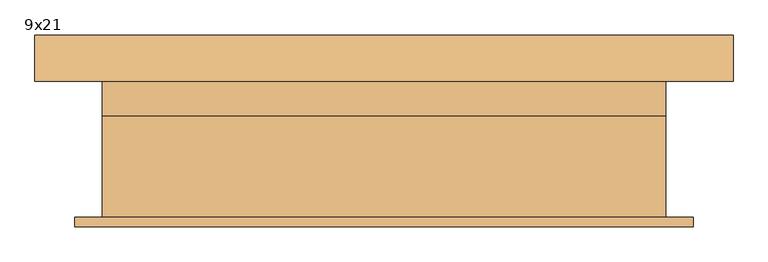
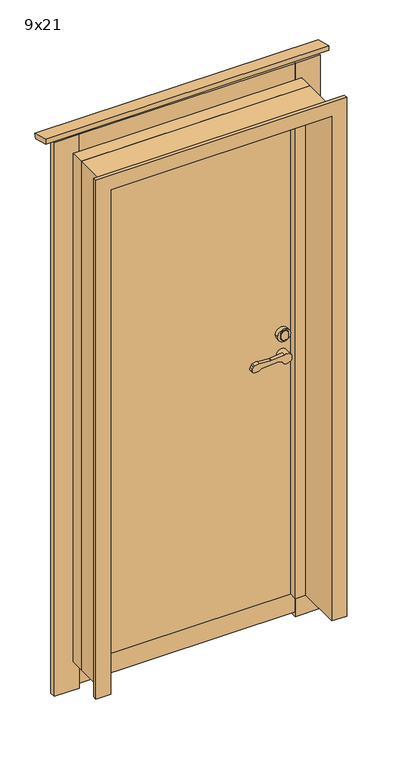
"""IFC4 building model written with IfcOpenShell, lengths in millimetres: door geometry, FPS Bangstad : 9x21."""

from ifc_helpers import new_model, si_unit, frame, origin, origin_with_axes, place, context, project, spatial, polyline, circle_curve, outline, extrude, faceted_brep, source, transform, mapped, element, save
from ifc_brep_helpers import plane_surface, cylinder_surface, revolved_surface, advanced_brep


def door_9x21_b78826aa(model_context):
    return source(origin(), model_context, "Body", "SolidModel", [
        advanced_brep(
        [(365.5814974, 179.973232, 997.7701387), (360.4724333, 179.973232, 998.6022345), (297.6679779, 179.973232, 992.2785443), (268.341903, 179.973232, 987.3918831), (263.4895652, 179.973232, 1000.5438812), (267.125376, 179.973232, 1008.6149507), (271.9379339, 179.973232, 1013.5335945), (290.5166845, 179.973232, 1015.9164674), (335.2405827, 179.973232, 1012.8329847), (340.3094903, 179.973232, 1012.9128632), (388.8891463, 179.973232, 1017.8042788), (418.0, 179.973232, 1000.0), (380.004483, 179.973232, 991.2729519), (340.3094903, 165.486616, 1012.9128632), (335.2405827, 165.486616, 1012.8329847), (290.5166845, 165.486616, 1015.9164674), (271.9379339, 165.486616, 1013.5335945), (267.125376, 165.486616, 1008.6149507), (263.4895652, 165.486616, 1000.5438812), (268.341903, 165.486616, 987.3918831), (297.6679779, 165.486616, 992.2785443), (360.4724333, 165.486616, 998.6022345), (365.5814974, 165.486616, 997.7701387), (380.004483, 165.486616, 991.2729519), (378.0, 165.486616, 1000.0), (388.8891463, 165.486616, 1017.8042788), (418.0, 144.973232, 1000.0), (378.0, 144.973232, 1000.0)],
        [
            (0, 1, circle_curve(frame((361.4742534, 179.973232, 988.6525432), z_axis=(0.0, -1.0, 0.0), x_axis=(-0.9949691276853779, 0.0, -0.10018200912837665)), 10.0)),
            (1, 2),
            (2, 3, circle_curve(frame((279.4773313, 179.973232, 1011.0052772), z_axis=(0.0, 1.0, 0.0), x_axis=(-0.9949691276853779, 0.0, -0.10018200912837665)), 26.1072815)),
            (3, 4, circle_curve(frame((272.6071607, 179.973232, 996.4366372), z_axis=(0.0, 1.0, 0.0), x_axis=(-0.9949691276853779, 0.0, -0.10018200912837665)), 10.0)),
            (4, 5),
            (5, 6, circle_curve(frame((276.2429714, 179.973232, 1004.5077067), z_axis=(0.0, 1.0, 0.0), x_axis=(-0.9949691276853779, 0.0, -0.10018200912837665)), 10.0)),
            (6, 7, circle_curve(frame((284.8530466, 179.973232, 986.455931), z_axis=(0.0, 1.0, 0.0), x_axis=(-0.9949691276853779, 0.0, -0.10018200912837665)), 30.0)),
            (7, 8),
            (8, 9, circle_curve(frame((337.30403, 179.973232, 1042.761937), z_axis=(0.0, -1.0, 0.0), x_axis=(-0.9949691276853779, 0.0, -0.10018200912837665)), 30.0)),
            (9, 10),
            (10, 11, circle_curve(frame((398.0, 179.973232, 1000.0), z_axis=(0.0, 1.0, 0.0), x_axis=(-1.0, 0.0, 0.0)), 20.0)),
            (11, 12, circle_curve(frame((398.0, 179.973232, 1000.0), z_axis=(0.0, 1.0, 0.0), x_axis=(-1.0, 0.0, 0.0)), 20.0)),
            (12, 0),
            (13, 14, circle_curve(frame((337.30403, 165.486616, 1042.761937), z_axis=(0.0, 1.0, 0.0), x_axis=(-0.9949691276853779, 0.0, -0.10018200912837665)), 30.0)),
            (14, 15),
            (15, 16, circle_curve(frame((284.8530466, 165.486616, 986.455931), z_axis=(0.0, -1.0, 0.0), x_axis=(-0.9949691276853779, 0.0, -0.10018200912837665)), 30.0)),
            (16, 17, circle_curve(frame((276.2429714, 165.486616, 1004.5077067), z_axis=(0.0, -1.0, 0.0), x_axis=(-0.9949691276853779, 0.0, -0.10018200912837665)), 10.0)),
            (17, 18),
            (18, 19, circle_curve(frame((272.6071607, 165.486616, 996.4366372), z_axis=(0.0, -1.0, 0.0), x_axis=(-0.9949691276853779, 0.0, -0.10018200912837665)), 10.0)),
            (19, 20, circle_curve(frame((279.4773313, 165.486616, 1011.0052772), z_axis=(0.0, -1.0, 0.0), x_axis=(-0.9949691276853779, 0.0, -0.10018200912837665)), 26.1072815)),
            (20, 21),
            (21, 22, circle_curve(frame((361.4742534, 165.486616, 988.6525432), z_axis=(0.0, 1.0, 0.0), x_axis=(-0.9949691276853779, 0.0, -0.10018200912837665)), 10.0)),
            (22, 23),
            (23, 24, circle_curve(frame((398.0, 165.486616, 1000.0), z_axis=(0.0, 1.0, 0.0), x_axis=(-1.0, 0.0, 0.0)), 20.0)),
            (24, 25, circle_curve(frame((398.0, 165.486616, 1000.0), z_axis=(0.0, 1.0, 0.0), x_axis=(-1.0, 0.0, 0.0)), 20.0)),
            (25, 13),
            (9, 13),
            (25, 10),
            (22, 0),
            (12, 23),
            (21, 1),
            (20, 2),
            (19, 3),
            (18, 4),
            (17, 5),
            (16, 6),
            (15, 7),
            (14, 8),
            (26, 27, circle_curve(frame((398.0, 144.973232, 1000.0), z_axis=(0.0, -1.0, 0.0), x_axis=(-1.0, 0.0, 0.0)), 20.0)),
            (27, 26, circle_curve(frame((398.0, 144.973232, 1000.0), z_axis=(0.0, -1.0, 0.0), x_axis=(-1.0, 0.0, 0.0)), 20.0)),
            (27, 24),
            (11, 26),
        ],
        [
            plane_surface(frame((389.3164257, 179.973232, 1017.847301), z_axis=(0.0, 1.0000000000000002, 0.0), x_axis=(0.9949691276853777, 0.0, 0.10018200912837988))),
            plane_surface(frame((389.3164257, 165.486616, 1017.847301), z_axis=(0.0, -1.0000000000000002, 0.0), x_axis=(-0.9949691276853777, 0.0, -0.10018200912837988))),
            plane_surface(frame((340.3094903, 179.973232, 1012.9128632), z_axis=(-0.10018200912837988, 0.0, 0.9949691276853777), x_axis=(0.0, -1.0, 0.0))),
            plane_surface(frame((398.5891035, 179.973232, 982.9010548), z_axis=(-0.41072439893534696, 0.0, -0.91175954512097), x_axis=(0.0, -1.0, 0.0))),
            revolved_surface(polyline([(351.5245621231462, 165.486616, 987.6507231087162), (351.5245621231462, 179.973232, 987.6507231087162)]), (361.4742534, 165.486616, 988.6525432), (0.0, -1.0, 0.0)),
            plane_surface(frame((360.4724333, 179.973232, 998.6022345), z_axis=(0.10018200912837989, 0.0, -0.9949691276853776), x_axis=(0.0, -1.0, 0.0))),
            cylinder_surface(frame((279.4773313, 165.486616, 1011.0052772), z_axis=(0.0, 1.0, 0.0), x_axis=(-0.9949691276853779, 0.0, -0.10018200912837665)), 26.1072815),
            cylinder_surface(frame((272.6071607, 165.486616, 996.4366372), z_axis=(0.0, 1.0, 0.0), x_axis=(-0.9949691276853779, 0.0, -0.10018200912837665)), 10.0),
            plane_surface(frame((263.4895652, 179.973232, 1000.5438812), z_axis=(-0.9117595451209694, 0.0, 0.41072439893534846), x_axis=(0.0, -1.0, 0.0))),
            cylinder_surface(frame((276.2429714, 165.486616, 1004.5077067), z_axis=(0.0, 1.0, 0.0), x_axis=(-0.9949691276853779, 0.0, -0.10018200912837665)), 10.0),
            cylinder_surface(frame((284.8530466, 165.486616, 986.455931), z_axis=(0.0, 1.0, 0.0), x_axis=(-0.9949691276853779, 0.0, -0.10018200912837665)), 30.0),
            plane_surface(frame((290.5166845, 179.973232, 1015.9164674), z_axis=(0.06878157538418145, 0.0, 0.9976317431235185), x_axis=(0.0, -1.0, 0.0))),
            revolved_surface(polyline([(307.4549561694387, 165.486616, 1039.7564767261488), (307.4549561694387, 179.973232, 1039.7564767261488)]), (337.30403, 165.486616, 1042.761937), (0.0, -1.0, 0.0)),
            plane_surface(frame((378.0, 144.973232, 1000.0), z_axis=(0.0, -1.0, 0.0), x_axis=(0.0, 0.0, -1.0))),
            cylinder_surface(frame((398.0, 144.973232, 1000.0), z_axis=(0.0, 1.0, 0.0), x_axis=(-1.0, 0.0, 0.0)), 20.0),
        ],
        [
            (0, [[1, 2, 3, 4, 5, 6, 7, 8, 9, 10, 11, 12, 13]]),
            (1, [[14, 15, 16, 17, 18, 19, 20, 21, 22, 23, 24, 25, 26]]),
            (2, [[27, -26, 28, -10]]),
            (3, [[29, -13, 30, -23]]),
            (4, [[-1, -29, -22, 31]]),
            (5, [[-2, -31, -21, 32]]),
            (6, [[-3, -32, -20, 33]]),
            (7, [[-4, -33, -19, 34]]),
            (8, [[-5, -34, -18, 35]]),
            (9, [[-6, -35, -17, 36]]),
            (10, [[-7, -36, -16, 37]]),
            (11, [[-8, -37, -15, 38]]),
            (12, [[-9, -38, -14, -27]]),
            (13, [[39, 40]]),
            (14, [[-40, 41, -24, -30, -12, 42]]),
            (14, [[-39, -42, -11, -28, -25, -41]]),
        ],
    ),
        advanced_brep(
        [(423.0, 161.932999, 1085.0), (373.0, 161.932999, 1085.0), (410.797635, 161.932999, 1096.6951736), (404.4238501, 161.932999, 1104.5281439), (390.7874865, 161.932999, 1104.1920273), (384.797635, 161.932999, 1096.448688), (384.7976351, 161.932999, 1076.6596406), (390.7234976, 161.932999, 1068.9331955), (404.3598612, 161.932999, 1068.4849283), (410.797635, 161.932999, 1076.3309113), (423.0, 144.973232, 1085.0), (373.0, 144.973232, 1085.0), (404.4238501, 166.932999, 1104.5281439), (410.797635, 166.932999, 1096.6951736), (410.797635, 166.932999, 1076.3309113), (404.3598612, 166.932999, 1068.4849283), (390.7234976, 166.932999, 1068.9331955), (384.7976351, 166.932999, 1076.6596406), (384.797635, 166.932999, 1096.448688), (390.7874865, 166.932999, 1104.1920273)],
        [
            (0, 1, circle_curve(frame((398.0, 161.932999, 1085.0), z_axis=(0.0, 1.0, 0.0), x_axis=(-1.0, 0.0, 0.0)), 25.0)),
            (1, 0, circle_curve(frame((398.0, 161.932999, 1085.0), z_axis=(0.0, 1.0, 0.0), x_axis=(-1.0, 0.0, 0.0)), 25.0)),
            (2, 3, circle_curve(frame((402.797635, 161.932999, 1096.6951736), z_axis=(0.0, -1.0, 0.0), x_axis=(-1.0, 0.0, 0.0)), 8.0)),
            (3, 4, circle_curve(frame((398.3255436, 161.932999, 1075.1545051), z_axis=(0.0, -1.0, 0.0), x_axis=(-1.0, 0.0, 0.0)), 30.0)),
            (4, 5, circle_curve(frame((392.797635, 161.932999, 1096.448688), z_axis=(0.0, -1.0, 0.0), x_axis=(-1.0, 0.0, 0.0)), 8.0)),
            (5, 6),
            (6, 7, circle_curve(frame((392.7976351, 161.932999, 1076.6596406), z_axis=(0.0, -1.0, 0.0), x_axis=(-1.0, 0.0, 0.0)), 8.0)),
            (7, 8, circle_curve(frame((398.5015131, 161.932999, 1097.9073646), z_axis=(0.0, -1.0, 0.0), x_axis=(-1.0, 0.0, 0.0)), 30.0)),
            (8, 9, circle_curve(frame((402.797635, 161.932999, 1076.3309113), z_axis=(0.0, -1.0, 0.0), x_axis=(-1.0, 0.0, 0.0)), 8.0)),
            (9, 2),
            (10, 11, circle_curve(frame((398.0, 144.973232, 1085.0), z_axis=(0.0, -1.0, 0.0), x_axis=(-1.0, 0.0, 0.0)), 25.0)),
            (11, 10, circle_curve(frame((398.0, 144.973232, 1085.0), z_axis=(0.0, -1.0, 0.0), x_axis=(-1.0, 0.0, 0.0)), 25.0)),
            (0, 10),
            (11, 1),
            (12, 13, circle_curve(frame((402.797635, 166.932999, 1096.6951736), z_axis=(0.0, 1.0, 0.0), x_axis=(-1.0, 0.0, 0.0)), 8.0)),
            (13, 14),
            (14, 15, circle_curve(frame((402.797635, 166.932999, 1076.3309113), z_axis=(0.0, 1.0, 0.0), x_axis=(-1.0, 0.0, 0.0)), 8.0)),
            (15, 16, circle_curve(frame((398.5015131, 166.932999, 1097.9073646), z_axis=(0.0, 1.0, 0.0), x_axis=(-1.0, 0.0, 0.0)), 30.0)),
            (16, 17, circle_curve(frame((392.7976351, 166.932999, 1076.6596406), z_axis=(0.0, 1.0, 0.0), x_axis=(-1.0, 0.0, 0.0)), 8.0)),
            (17, 18),
            (18, 19, circle_curve(frame((392.797635, 166.932999, 1096.448688), z_axis=(0.0, 1.0, 0.0), x_axis=(-1.0, 0.0, 0.0)), 8.0)),
            (19, 12, circle_curve(frame((398.3255436, 166.932999, 1075.1545051), z_axis=(0.0, 1.0, 0.0), x_axis=(-1.0, 0.0, 0.0)), 30.0)),
            (12, 3),
            (2, 13),
            (9, 14),
            (8, 15),
            (7, 16),
            (6, 17),
            (5, 18),
            (4, 19),
        ],
        [
            plane_surface(frame((373.0, 161.932999, 1085.0), z_axis=(0.0, 1.0, 0.0), x_axis=(0.0, 0.0, 1.0))),
            plane_surface(frame((373.0, 144.973232, 1085.0), z_axis=(0.0, -1.0, 0.0), x_axis=(0.0, 0.0, -1.0))),
            cylinder_surface(frame((398.0, 144.973232, 1085.0), z_axis=(0.0, 1.0, 0.0), x_axis=(-1.0, 0.0, 0.0)), 25.0),
            plane_surface(frame((394.797635, 166.932999, 1096.6951736), z_axis=(0.0, 1.0, 0.0), x_axis=(0.0, 0.0, 1.0))),
            cylinder_surface(frame((402.797635, 161.932999, 1096.6951736), z_axis=(0.0, 1.0, 0.0), x_axis=(-1.0, 0.0, 0.0)), 8.0),
            plane_surface(frame((410.797635, 166.932999, 1096.6951736), z_axis=(1.0, 0.0, 0.0), x_axis=(0.0, -1.0, 0.0))),
            cylinder_surface(frame((402.797635, 161.932999, 1076.3309113), z_axis=(0.0, 1.0, 0.0), x_axis=(-1.0, 0.0, 0.0)), 8.0),
            cylinder_surface(frame((398.5015131, 161.932999, 1097.9073646), z_axis=(0.0, 1.0, 0.0), x_axis=(-1.0, 0.0, 0.0)), 30.0),
            cylinder_surface(frame((392.7976351, 161.932999, 1076.6596406), z_axis=(0.0, 1.0, 0.0), x_axis=(-1.0, 0.0, 0.0)), 8.0),
            plane_surface(frame((384.7976351, 166.932999, 1076.6596406), z_axis=(-1.0, 0.0, -2.725747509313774e-09), x_axis=(0.0, -1.0, 0.0))),
            cylinder_surface(frame((392.797635, 161.932999, 1096.448688), z_axis=(0.0, 1.0, 0.0), x_axis=(-1.0, 0.0, 0.0)), 8.0),
            cylinder_surface(frame((398.3255436, 161.932999, 1075.1545051), z_axis=(0.0, 1.0, 0.0), x_axis=(-1.0, 0.0, 0.0)), 30.0),
        ],
        [
            (0, [[1, 2], [3, 4, 5, 6, 7, 8, 9, 10]]),
            (1, [[11, 12]]),
            (2, [[-1, 13, -12, 14]]),
            (2, [[-2, -14, -11, -13]]),
            (3, [[15, 16, 17, 18, 19, 20, 21, 22]]),
            (4, [[-15, 23, -3, 24]]),
            (5, [[-16, -24, -10, 25]]),
            (6, [[-17, -25, -9, 26]]),
            (7, [[-18, -26, -8, 27]]),
            (8, [[-19, -27, -7, 28]]),
            (9, [[-20, -28, -6, 29]]),
            (10, [[-21, -29, -5, 30]]),
            (11, [[-22, -30, -4, -23]]),
        ],
    ),
        advanced_brep(
        [(365.5814974, 50.0, 997.7701387), (380.004483, 50.0, 991.2729519), (418.0, 50.0, 1000.0), (388.8891463, 50.0, 1017.8042788), (340.3094903, 50.0, 1012.9128632), (335.2405827, 50.0, 1012.8329847), (290.5166845, 50.0, 1015.9164674), (271.9379339, 50.0, 1013.5335945), (267.125376, 50.0, 1008.6149507), (263.4895652, 50.0, 1000.5438812), (268.341903, 50.0, 987.3918831), (297.6679779, 50.0, 992.2785443), (360.4724333, 50.0, 998.6022345), (340.3094903, 64.486616, 1012.9128632), (388.8891463, 64.486616, 1017.8042788), (378.0, 64.486616, 1000.0), (380.004483, 64.486616, 991.2729519), (365.5814974, 64.486616, 997.7701387), (360.4724333, 64.486616, 998.6022345), (297.6679779, 64.486616, 992.2785443), (268.341903, 64.486616, 987.3918831), (263.4895652, 64.486616, 1000.5438812), (267.125376, 64.486616, 1008.6149507), (271.9379339, 64.486616, 1013.5335945), (290.5166845, 64.486616, 1015.9164674), (335.2405827, 64.486616, 1012.8329847), (418.0, 85.0, 1000.0), (378.0, 85.0, 1000.0)],
        [
            (0, 1),
            (1, 2, circle_curve(frame((398.0, 50.0, 1000.0), z_axis=(0.0, -1.0, 0.0), x_axis=(-1.0, 0.0, 0.0)), 20.0)),
            (2, 3, circle_curve(frame((398.0, 50.0, 1000.0), z_axis=(0.0, -1.0, 0.0), x_axis=(-1.0, 0.0, 0.0)), 20.0)),
            (3, 4),
            (4, 5, circle_curve(frame((337.30403, 50.0, 1042.761937), z_axis=(0.0, 1.0, 0.0), x_axis=(-0.9949691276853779, 0.0, -0.10018200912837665)), 30.0)),
            (5, 6),
            (6, 7, circle_curve(frame((284.8530466, 50.0, 986.455931), z_axis=(0.0, -1.0, 0.0), x_axis=(-0.9949691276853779, 0.0, -0.10018200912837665)), 30.0)),
            (7, 8, circle_curve(frame((276.2429714, 50.0, 1004.5077067), z_axis=(0.0, -1.0, 0.0), x_axis=(-0.9949691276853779, 0.0, -0.10018200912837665)), 10.0)),
            (8, 9),
            (9, 10, circle_curve(frame((272.6071607, 50.0, 996.4366372), z_axis=(0.0, -1.0, 0.0), x_axis=(-0.9949691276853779, 0.0, -0.10018200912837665)), 10.0)),
            (10, 11, circle_curve(frame((279.4773313, 50.0, 1011.0052772), z_axis=(0.0, -1.0, 0.0), x_axis=(-0.9949691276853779, 0.0, -0.10018200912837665)), 26.1072815)),
            (11, 12),
            (12, 0, circle_curve(frame((361.4742534, 50.0, 988.6525432), z_axis=(0.0, 1.0, 0.0), x_axis=(-0.9949691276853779, 0.0, -0.10018200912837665)), 10.0)),
            (13, 14),
            (14, 15, circle_curve(frame((398.0, 64.486616, 1000.0), z_axis=(0.0, -1.0, 0.0), x_axis=(-1.0, 0.0, 0.0)), 20.0)),
            (15, 16, circle_curve(frame((398.0, 64.486616, 1000.0), z_axis=(0.0, -1.0, 0.0), x_axis=(-1.0, 0.0, 0.0)), 20.0)),
            (16, 17),
            (17, 18, circle_curve(frame((361.4742534, 64.486616, 988.6525432), z_axis=(0.0, -1.0, 0.0), x_axis=(-0.9949691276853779, 0.0, -0.10018200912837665)), 10.0)),
            (18, 19),
            (19, 20, circle_curve(frame((279.4773313, 64.486616, 1011.0052772), z_axis=(0.0, 1.0, 0.0), x_axis=(-0.9949691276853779, 0.0, -0.10018200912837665)), 26.1072815)),
            (20, 21, circle_curve(frame((272.6071607, 64.486616, 996.4366372), z_axis=(0.0, 1.0, 0.0), x_axis=(-0.9949691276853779, 0.0, -0.10018200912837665)), 10.0)),
            (21, 22),
            (22, 23, circle_curve(frame((276.2429714, 64.486616, 1004.5077067), z_axis=(0.0, 1.0, 0.0), x_axis=(-0.9949691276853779, 0.0, -0.10018200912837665)), 10.0)),
            (23, 24, circle_curve(frame((284.8530466, 64.486616, 986.455931), z_axis=(0.0, 1.0, 0.0), x_axis=(-0.9949691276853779, 0.0, -0.10018200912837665)), 30.0)),
            (24, 25),
            (25, 13, circle_curve(frame((337.30403, 64.486616, 1042.761937), z_axis=(0.0, -1.0, 0.0), x_axis=(-0.9949691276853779, 0.0, -0.10018200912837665)), 30.0)),
            (3, 14),
            (13, 4),
            (16, 1),
            (0, 17),
            (12, 18),
            (11, 19),
            (10, 20),
            (9, 21),
            (8, 22),
            (7, 23),
            (6, 24),
            (5, 25),
            (26, 27, circle_curve(frame((398.0, 85.0, 1000.0), z_axis=(0.0, 1.0, 0.0), x_axis=(-1.0, 0.0, 0.0)), 20.0)),
            (27, 26, circle_curve(frame((398.0, 85.0, 1000.0), z_axis=(0.0, 1.0, 0.0), x_axis=(-1.0, 0.0, 0.0)), 20.0)),
            (26, 2),
            (15, 27),
        ],
        [
            plane_surface(frame((389.3164257, 50.0, 1017.847301), z_axis=(0.0, -1.0000000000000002, 0.0), x_axis=(0.9949691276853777, 0.0, 0.10018200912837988))),
            plane_surface(frame((389.3164257, 64.486616, 1017.847301), z_axis=(0.0, 1.0000000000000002, 0.0), x_axis=(-0.9949691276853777, 0.0, -0.10018200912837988))),
            plane_surface(frame((340.3094903, 50.0, 1012.9128632), z_axis=(-0.10018200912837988, 0.0, 0.9949691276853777), x_axis=(0.0, 1.0, 0.0))),
            plane_surface(frame((398.5891035, 50.0, 982.9010548), z_axis=(-0.41072439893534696, 0.0, -0.91175954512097), x_axis=(0.0, 1.0, 0.0))),
            revolved_surface(polyline([(351.5245621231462, 64.486616, 987.6507231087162), (351.5245621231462, 50.0, 987.6507231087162)]), (361.4742534, 64.486616, 988.6525432), (0.0, 1.0, 0.0)),
            plane_surface(frame((360.4724333, 50.0, 998.6022345), z_axis=(0.10018200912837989, 0.0, -0.9949691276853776), x_axis=(0.0, 1.0, 0.0))),
            cylinder_surface(frame((279.4773313, 64.486616, 1011.0052772), z_axis=(0.0, -1.0, 0.0), x_axis=(-0.9949691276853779, 0.0, -0.10018200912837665)), 26.1072815),
            cylinder_surface(frame((272.6071607, 64.486616, 996.4366372), z_axis=(0.0, -1.0, 0.0), x_axis=(-0.9949691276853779, 0.0, -0.10018200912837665)), 10.0),
            plane_surface(frame((263.4895652, 50.0, 1000.5438812), z_axis=(-0.9117595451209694, 0.0, 0.41072439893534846), x_axis=(0.0, 1.0, 0.0))),
            cylinder_surface(frame((276.2429714, 64.486616, 1004.5077067), z_axis=(0.0, -1.0, 0.0), x_axis=(-0.9949691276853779, 0.0, -0.10018200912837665)), 10.0),
            cylinder_surface(frame((284.8530466, 64.486616, 986.455931), z_axis=(0.0, -1.0, 0.0), x_axis=(-0.9949691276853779, 0.0, -0.10018200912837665)), 30.0),
            plane_surface(frame((290.5166845, 50.0, 1015.9164674), z_axis=(0.06878157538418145, 0.0, 0.9976317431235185), x_axis=(0.0, 1.0, 0.0))),
            revolved_surface(polyline([(307.4549561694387, 64.486616, 1039.7564767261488), (307.4549561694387, 50.0, 1039.7564767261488)]), (337.30403, 64.486616, 1042.761937), (0.0, 1.0, 0.0)),
            plane_surface(frame((378.0, 85.0, 1000.0), z_axis=(0.0, 1.0, 0.0), x_axis=(0.0, 0.0, -1.0))),
            cylinder_surface(frame((398.0, 85.0, 1000.0), z_axis=(0.0, -1.0, 0.0), x_axis=(-1.0, 0.0, 0.0)), 20.0),
        ],
        [
            (0, [[1, 2, 3, 4, 5, 6, 7, 8, 9, 10, 11, 12, 13]]),
            (1, [[14, 15, 16, 17, 18, 19, 20, 21, 22, 23, 24, 25, 26]]),
            (2, [[-4, 27, -14, 28]]),
            (3, [[-17, 29, -1, 30]]),
            (4, [[31, -18, -30, -13]]),
            (5, [[32, -19, -31, -12]]),
            (6, [[33, -20, -32, -11]]),
            (7, [[34, -21, -33, -10]]),
            (8, [[35, -22, -34, -9]]),
            (9, [[36, -23, -35, -8]]),
            (10, [[37, -24, -36, -7]]),
            (11, [[38, -25, -37, -6]]),
            (12, [[-28, -26, -38, -5]]),
            (13, [[39, 40]]),
            (14, [[41, -2, -29, -16, 42, -39]]),
            (14, [[-42, -15, -27, -3, -41, -40]]),
        ],
    ),
        advanced_brep(
        [(423.0, 68.040233, 1085.0), (373.0, 68.040233, 1085.0), (410.797635, 68.040233, 1096.6951736), (410.797635, 68.040233, 1076.3309113), (404.3598612, 68.040233, 1068.4849283), (390.7234976, 68.040233, 1068.9331955), (384.7976351, 68.040233, 1076.6596406), (384.797635, 68.040233, 1096.448688), (390.7874865, 68.040233, 1104.1920273), (404.4238501, 68.040233, 1104.5281439), (423.0, 85.0, 1085.0), (373.0, 85.0, 1085.0), (404.4238501, 63.040233, 1104.5281439), (390.7874865, 63.040233, 1104.1920273), (384.797635, 63.040233, 1096.448688), (384.7976351, 63.040233, 1076.6596406), (390.7234976, 63.040233, 1068.9331955), (404.3598612, 63.040233, 1068.4849283), (410.797635, 63.040233, 1076.3309113), (410.797635, 63.040233, 1096.6951736)],
        [
            (0, 1, circle_curve(frame((398.0, 68.040233, 1085.0), z_axis=(0.0, -1.0, 0.0), x_axis=(-1.0, 0.0, 0.0)), 25.0)),
            (1, 0, circle_curve(frame((398.0, 68.040233, 1085.0), z_axis=(0.0, -1.0, 0.0), x_axis=(-1.0, 0.0, 0.0)), 25.0)),
            (2, 3),
            (3, 4, circle_curve(frame((402.797635, 68.040233, 1076.3309113), z_axis=(0.0, 1.0, 0.0), x_axis=(-1.0, 0.0, 0.0)), 8.0)),
            (4, 5, circle_curve(frame((398.5015131, 68.040233, 1097.9073646), z_axis=(0.0, 1.0, 0.0), x_axis=(-1.0, 0.0, 0.0)), 30.0)),
            (5, 6, circle_curve(frame((392.7976351, 68.040233, 1076.6596406), z_axis=(0.0, 1.0, 0.0), x_axis=(-1.0, 0.0, 0.0)), 8.0)),
            (6, 7),
            (7, 8, circle_curve(frame((392.797635, 68.040233, 1096.448688), z_axis=(0.0, 1.0, 0.0), x_axis=(-1.0, 0.0, 0.0)), 8.0)),
            (8, 9, circle_curve(frame((398.3255436, 68.040233, 1075.1545051), z_axis=(0.0, 1.0, 0.0), x_axis=(-1.0, 0.0, 0.0)), 30.0)),
            (9, 2, circle_curve(frame((402.797635, 68.040233, 1096.6951736), z_axis=(0.0, 1.0, 0.0), x_axis=(-1.0, 0.0, 0.0)), 8.0)),
            (10, 11, circle_curve(frame((398.0, 85.0, 1085.0), z_axis=(0.0, 1.0, 0.0), x_axis=(-1.0, 0.0, 0.0)), 25.0)),
            (11, 10, circle_curve(frame((398.0, 85.0, 1085.0), z_axis=(0.0, 1.0, 0.0), x_axis=(-1.0, 0.0, 0.0)), 25.0)),
            (1, 11),
            (10, 0),
            (12, 13, circle_curve(frame((398.3255436, 63.040233, 1075.1545051), z_axis=(0.0, -1.0, 0.0), x_axis=(-1.0, 0.0, 0.0)), 30.0)),
            (13, 14, circle_curve(frame((392.797635, 63.040233, 1096.448688), z_axis=(0.0, -1.0, 0.0), x_axis=(-1.0, 0.0, 0.0)), 8.0)),
            (14, 15),
            (15, 16, circle_curve(frame((392.7976351, 63.040233, 1076.6596406), z_axis=(0.0, -1.0, 0.0), x_axis=(-1.0, 0.0, 0.0)), 8.0)),
            (16, 17, circle_curve(frame((398.5015131, 63.040233, 1097.9073646), z_axis=(0.0, -1.0, 0.0), x_axis=(-1.0, 0.0, 0.0)), 30.0)),
            (17, 18, circle_curve(frame((402.797635, 63.040233, 1076.3309113), z_axis=(0.0, -1.0, 0.0), x_axis=(-1.0, 0.0, 0.0)), 8.0)),
            (18, 19),
            (19, 12, circle_curve(frame((402.797635, 63.040233, 1096.6951736), z_axis=(0.0, -1.0, 0.0), x_axis=(-1.0, 0.0, 0.0)), 8.0)),
            (19, 2),
            (9, 12),
            (18, 3),
            (17, 4),
            (16, 5),
            (15, 6),
            (14, 7),
            (13, 8),
        ],
        [
            plane_surface(frame((373.0, 68.040233, 1085.0), z_axis=(0.0, -1.0, 0.0), x_axis=(0.0, 0.0, 1.0))),
            plane_surface(frame((373.0, 85.0, 1085.0), z_axis=(0.0, 1.0, 0.0), x_axis=(0.0, 0.0, -1.0))),
            cylinder_surface(frame((398.0, 85.0, 1085.0), z_axis=(0.0, -1.0, 0.0), x_axis=(-1.0, 0.0, 0.0)), 25.0),
            plane_surface(frame((394.797635, 63.040233, 1096.6951736), z_axis=(0.0, -1.0, 0.0), x_axis=(0.0, 0.0, 1.0))),
            cylinder_surface(frame((402.797635, 68.040233, 1096.6951736), z_axis=(0.0, -1.0, 0.0), x_axis=(-1.0, 0.0, 0.0)), 8.0),
            plane_surface(frame((410.797635, 63.040233, 1096.6951736), z_axis=(1.0, 0.0, 0.0), x_axis=(0.0, 1.0, 0.0))),
            cylinder_surface(frame((402.797635, 68.040233, 1076.3309113), z_axis=(0.0, -1.0, 0.0), x_axis=(-1.0, 0.0, 0.0)), 8.0),
            cylinder_surface(frame((398.5015131, 68.040233, 1097.9073646), z_axis=(0.0, -1.0, 0.0), x_axis=(-1.0, 0.0, 0.0)), 30.0),
            cylinder_surface(frame((392.7976351, 68.040233, 1076.6596406), z_axis=(0.0, -1.0, 0.0), x_axis=(-1.0, 0.0, 0.0)), 8.0),
            plane_surface(frame((384.7976351, 63.040233, 1076.6596406), z_axis=(-1.0, 0.0, -2.725747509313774e-09), x_axis=(0.0, 1.0, 0.0))),
            cylinder_surface(frame((392.797635, 68.040233, 1096.448688), z_axis=(0.0, -1.0, 0.0), x_axis=(-1.0, 0.0, 0.0)), 8.0),
            cylinder_surface(frame((398.3255436, 68.040233, 1075.1545051), z_axis=(0.0, -1.0, 0.0), x_axis=(-1.0, 0.0, 0.0)), 30.0),
        ],
        [
            (0, [[1, 2], [3, 4, 5, 6, 7, 8, 9, 10]]),
            (1, [[11, 12]]),
            (2, [[13, -11, 14, -2]]),
            (2, [[-14, -12, -13, -1]]),
            (3, [[15, 16, 17, 18, 19, 20, 21, 22]]),
            (4, [[23, -10, 24, -22]]),
            (5, [[25, -3, -23, -21]]),
            (6, [[26, -4, -25, -20]]),
            (7, [[27, -5, -26, -19]]),
            (8, [[28, -6, -27, -18]]),
            (9, [[29, -7, -28, -17]]),
            (10, [[30, -8, -29, -16]]),
            (11, [[-24, -9, -30, -15]]),
        ],
    ),
        extrude(outline(polyline([(-360.0, 145.0), (448.0, 145.0), (448.0, 85.0), (-360.0, 85.0), (-360.0, 145.0)])), origin_with_axes(), (0.0, 0.0, 1.0), 2048.0),
        extrude(outline(polyline([(-375.0, 107.0), (-375.0, 129.0), (463.0, 129.0), (463.0, 107.0), (-375.0, 107.0)])), frame((0.0, 0.0, 2059.0), z_axis=(0.0, 0.0, 1.0), x_axis=(1.0, 0.0, 0.0)), (0.0, 0.0, 1.0), 98.0),
        extrude(outline(polyline([(179.444437, 2162.9885716), (174.5268751, 2144.6359809), (107.0, 2162.7297526), (107.0, 2182.4), (179.444437, 2162.9885716)])), frame((-506.0, 0.0, 0.0), z_axis=(1.0, 0.0, 0.0), x_axis=(0.0, 1.0, 0.0)), (0.0, 0.0, 1.0), 1100.0),
        extrude(outline(polyline([(561.0, 107.0), (463.0, 107.0), (463.0, 129.0), (561.0, 129.0), (561.0, 107.0)])), frame((0.0, 0.0, -118.0), z_axis=(0.0, 0.0, 1.0), x_axis=(1.0, 0.0, 0.0)), (0.0, 0.0, 1.0), 2275.0),
        extrude(outline(polyline([(-375.0, 107.0), (-473.0, 107.0), (-473.0, 129.0), (-375.0, 129.0), (-375.0, 107.0)])), frame((0.0, 0.0, -118.0), z_axis=(0.0, 0.0, 1.0), x_axis=(1.0, 0.0, 0.0)), (0.0, 0.0, 1.0), 2275.0),
        extrude(outline(polyline([(-375.0, 107.0), (-375.0, 129.0), (463.0, 129.0), (463.0, 107.0), (-375.0, 107.0)])), frame((0.0, 0.0, -97.9948268), z_axis=(0.0, 0.0, 1.0), x_axis=(1.0, 0.0, 0.0)), (0.0, 0.0, 1.0), 97.9948268),
        faceted_brep([(488.0, 53.0, 0.0), (433.0, 53.0, 0.0), (433.0, 85.0, 0.0), (448.0, 85.0, 0.0), (448.0, 145.0, 0.0), (488.0, 145.0, 0.0), (488.0, 53.0, 2088.0), (-400.0, 53.0, 2088.0), (-400.0, 53.0, 0.0), (-345.0, 53.0, 0.0), (-345.0, 53.0, 2033.0), (433.0, 53.0, 2033.0), (433.0, 85.0, 2033.0), (-345.0, 85.0, 2033.0), (-345.0, 85.0, 0.0), (-360.0, 85.0, 0.0), (-360.0, 85.0, 2048.0), (448.0, 85.0, 2048.0), (448.0, 145.0, 2048.0), (-360.0, 145.0, 2048.0), (-360.0, 145.0, 0.0), (-400.0, 145.0, 0.0), (-400.0, 145.0, 2088.0), (488.0, 145.0, 2088.0)], [[[0, 1, 2, 3, 4, 5]], [[1, 0, 6, 7, 8, 9, 10, 11]], [[2, 1, 11, 12]], [[3, 2, 12, 13, 14, 15, 16, 17]], [[4, 3, 17, 18]], [[5, 4, 18, 19, 20, 21, 22, 23]], [[0, 5, 23, 6]], [[7, 22, 21, 8]], [[8, 21, 20, 15, 14, 9]], [[13, 10, 9, 14]], [[19, 16, 15, 20]], [[12, 11, 10, 13]], [[18, 17, 16, 19]], [[6, 23, 22, 7]]]),
        extrude(outline(polyline([(0.0, 463.0), (0.0, 488.0), (2088.0, 488.0), (2088.0, -400.0), (0.0, -400.0), (0.0, -375.0), (2063.0, -375.0), (2063.0, 463.0), (0.0, 463.0)])), frame((0.0, 107.0, 0.0), z_axis=(0.0, 1.0, 0.0), x_axis=(0.0, 0.0, 1.0)), (0.0, 0.0, 1.0), 38.0),
        faceted_brep([(-400.0, -107.0, 0.0), (-400.0, 53.0, 0.0), (-385.0, 53.0, 0.0), (-385.0, -122.0, 0.0), (-443.0, -122.0, 0.0), (-443.0, -107.0, 0.0), (-400.0, -107.0, 2088.0), (-400.0, 53.0, 2088.0), (488.0, 53.0, 2088.0), (488.0, 53.0, 0.0), (473.0, 53.0, 0.0), (473.0, 53.0, 2073.0), (-385.0, 53.0, 2073.0), (-385.0, -122.0, 2073.0), (473.0, -122.0, 2073.0), (473.0, -122.0, 0.0), (531.0, -122.0, 0.0), (531.0, -122.0, 2131.0), (-443.0, -122.0, 2131.0), (-443.0, -107.0, 2131.0), (531.0, -107.0, 2131.0), (531.0, -107.0, 0.0), (488.0, -107.0, 0.0), (488.0, -107.0, 2088.0)], [[[0, 1, 2, 3, 4, 5]], [[1, 0, 6, 7]], [[2, 1, 7, 8, 9, 10, 11, 12]], [[3, 2, 12, 13]], [[4, 3, 13, 14, 15, 16, 17, 18]], [[5, 4, 18, 19]], [[0, 5, 19, 20, 21, 22, 23, 6]], [[8, 23, 22, 9]], [[22, 21, 16, 15, 10, 9]], [[14, 11, 10, 15]], [[20, 17, 16, 21]], [[7, 6, 23, 8]], [[13, 12, 11, 14]], [[19, 18, 17, 20]]]),
    ])


if __name__ == "__main__":
    model = new_model("IFC4")
    model_context = context("Model", 3, world=origin())
    ifc_project = project(units=[si_unit("LENGTHUNIT", "METRE", prefix="MILLI")], contexts=[model_context])
    site = spatial("IfcSite", under=ifc_project)
    building = spatial("IfcBuilding", under=site)
    placement = place(None, origin())
    door_9x21_shape = door_9x21_b78826aa(model_context)
    element("IfcDoor", 1, ObjectType="FPS Bangstad : 9x21", at=placement, inside=building, context=model_context, shape_type="MappedRepresentation", body=[
        mapped(door_9x21_shape, transform((0.0, 0.0, 0.0), x_axis=(1.0, 0.0, 0.0), y_axis=(0.0, 1.0, 0.0), z_axis=(0.0, 0.0, 1.0))),
    ])
    save(model, "model.ifc")
